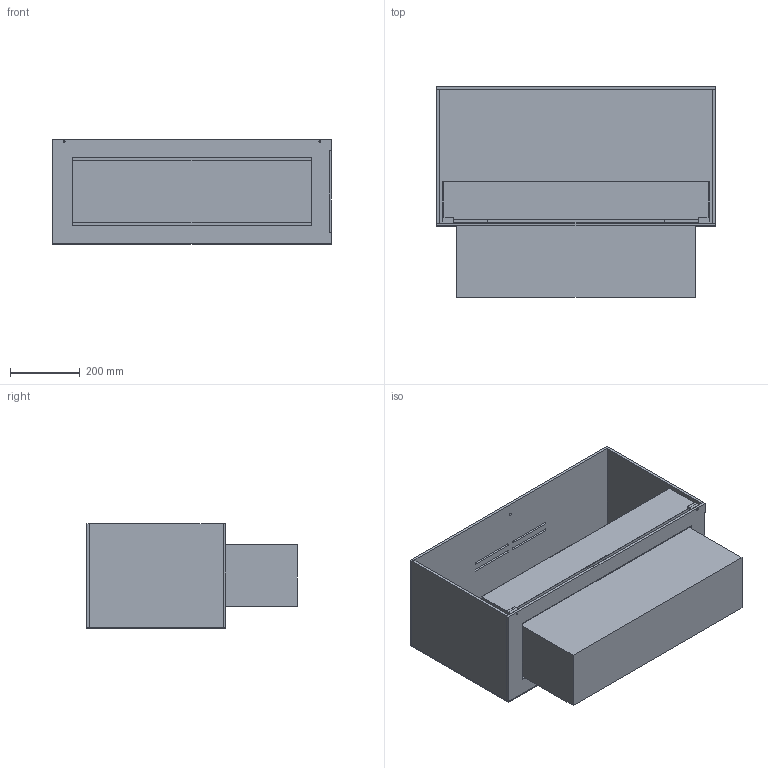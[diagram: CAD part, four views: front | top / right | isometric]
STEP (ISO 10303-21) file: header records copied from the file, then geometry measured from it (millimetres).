
FILE_DESCRIPTION (( 'STEP AP203' ), '1' );
FILE_NAME ('Montreal open front 800 Hybird Mist.STEP', '2024-03-13T10:40:08', ( '' ), ( '' ), 'SwSTEP 2.0', 'SolidWorks 2023', '' );
FILE_SCHEMA (( 'CONFIG_CONTROL_DESIGN' ));
Length unit declared in the file: millimetre
Products named in the file (9): 3mm alu Bag - P&G -1120SIShowroom -look book; 8mm alu Bund - P&G -1120SIShowroom -look book; Denver F6_uden glass; 8mm alu Top - P&G -1120SIShowroom -look book; Montreal open front 800 Hybird Mist; Part3^P&G -1120SI Montreal Single AUTOShowroom -look book; Part1^P&G -1120SI Montreal Single AUTOShowroom -look book; 8mm alu Side - P&G -1120SIShowroom -look book_Glass; Glas holder flad med sider 10mm
Assembly tree (9 placements, depth 2):
  Montreal open front 800 Hybird Mist
    8mm alu Top - P&G -1120SIShowroom -look book
    8mm alu Bund - P&G -1120SIShowroom -look book
    8mm alu Side - P&G -1120SIShowroom -look book_Glass  x2
    3mm alu Bag - P&G -1120SIShowroom -look book
    Glas holder flad med sider 10mm  x2
    Part1^P&G -1120SI Montreal Single AUTOShowroom -look book
    Denver F6_uden glass
  Part3^P&G -1120SI Montreal Single AUTOShowroom -look book
Bounding box: 800 x 605 x 300 mm (x, y, z)
Volume: 32952928 mm3; surface area: 3030809 mm2
Topology: 13 solids, 13 shells, 201 faces, 516 edges, 344 vertices
Faces by surface type: plane 149, cylinder 52
Entity records: 6442 total; most frequent: CARTESIAN_POINT 960, DIRECTION 934, ORIENTED_EDGE 924, EDGE_CURVE 462, VECTOR 370, LINE 370, VERTEX_POINT 308, AXIS2_PLACEMENT_3D 282
